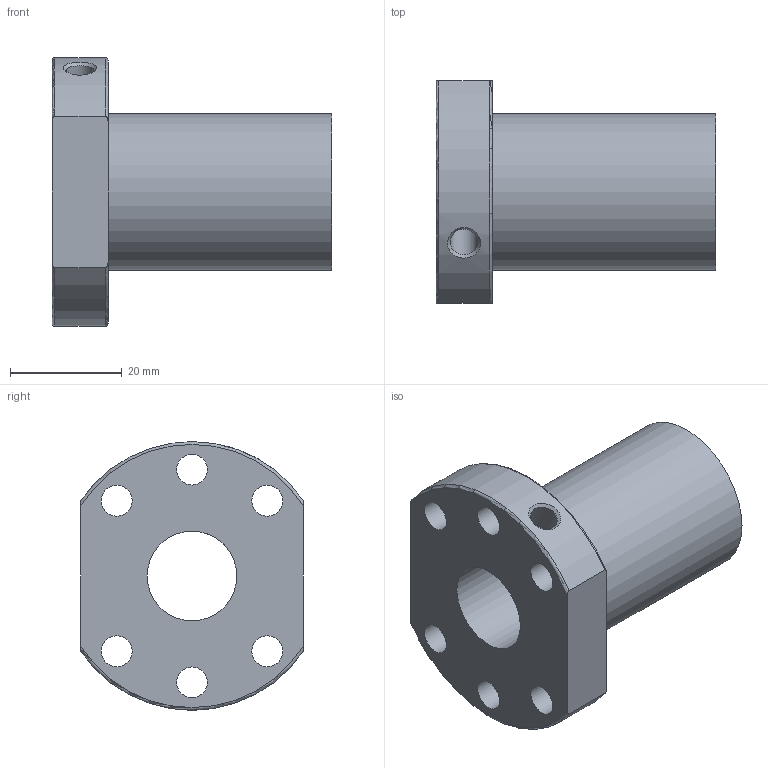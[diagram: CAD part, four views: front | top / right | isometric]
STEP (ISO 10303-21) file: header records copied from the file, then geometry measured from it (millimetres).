
FILE_DESCRIPTION(/* description */ (''),/* implementation_level */ '2;1');
FILE_NAME(/* name */ 'C:\Users\David Dillkötter\ownCloud\Kamp und Kötter\Artikel\Kugelumlaufspindel SFU1605\02_STEP-Dateien\SpindelmutterSFU1605_MJ2020.stp',/* time_stamp */ '2020-08-25T15:59:51+02:00',/* author */ ('David Dillkötter'),/* organization */ (''),/* preprocessor_version */ 'ST-DEVELOPER v18.1',/* originating_system */ 'Autodesk Inventor 2021',/* authorisation */ '');
FILE_SCHEMA (('AUTOMOTIVE_DESIGN { 1 0 10303 214 3 1 1 }'));
Length unit declared in the file: millimetre
Products named in the file (1): SpindelmutterSFU1605_MJ2020
Bounding box: 50 x 39.7 x 48 mm (x, y, z)
Volume: 29409 mm3; surface area: 11336.4 mm2
Topology: 1 solids, 1 shells, 21 faces, 55 edges, 37 vertices
Faces by surface type: cylinder 11, plane 5, torus 4, bspline 1
Full cylindrical faces by diameter (mm): 4.917 x1, 5.5 x6, 16 x1, 28 x1
Entity records: 949 total; most frequent: CARTESIAN_POINT 358, ORIENTED_EDGE 110, DIRECTION 108, EDGE_CURVE 55, AXIS2_PLACEMENT_3D 45, EDGE_LOOP 38, VERTEX_POINT 37, CIRCLE 24
